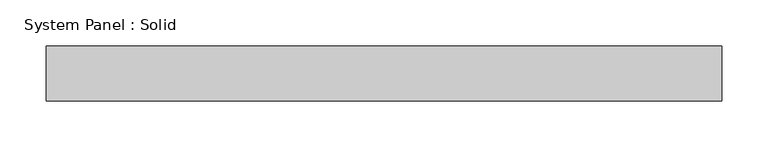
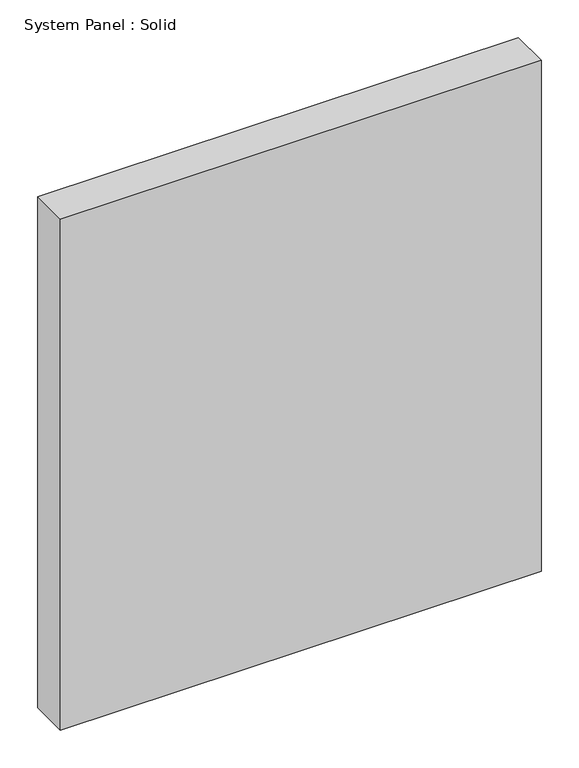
"""IFC4 building model written with IfcOpenShell, lengths in millimetres: plate geometry, System Panel : Solid."""

from ifc_helpers import new_model, si_unit, origin, origin_with_axes, place, context, project, spatial, polyline, outline, extrude, source, transform, mapped, element, save


def system_panel_solid_fd27a8c9(model_context):
    return source(origin(), model_context, "Body", "SweptSolid", [
        extrude(outline(polyline([(367.0833333, -10.5), (-367.0833333, -10.5), (-367.0833333, 49.5), (367.0833333, 49.5), (367.0833333, -10.5)])), origin_with_axes(), (0.0, 0.0, 1.0), 825.0),
    ])


if __name__ == "__main__":
    model = new_model("IFC4")
    model_context = context("Model", 3, world=origin())
    ifc_project = project(units=[si_unit("LENGTHUNIT", "METRE", prefix="MILLI")], contexts=[model_context])
    site = spatial("IfcSite", under=ifc_project)
    building = spatial("IfcBuilding", under=site)
    placement = place(None, origin())
    system_panel_solid_shape = system_panel_solid_fd27a8c9(model_context)
    element("IfcPlate", 1, ObjectType="System Panel : Solid", at=placement, inside=building, context=model_context, shape_type="MappedRepresentation", body=[
        mapped(system_panel_solid_shape, transform((0.0, 0.0, 0.0), x_axis=(1.0, 0.0, 0.0), y_axis=(0.0, 1.0, 0.0), z_axis=(0.0, 0.0, 1.0))),
    ])
    save(model, "model.ifc")
